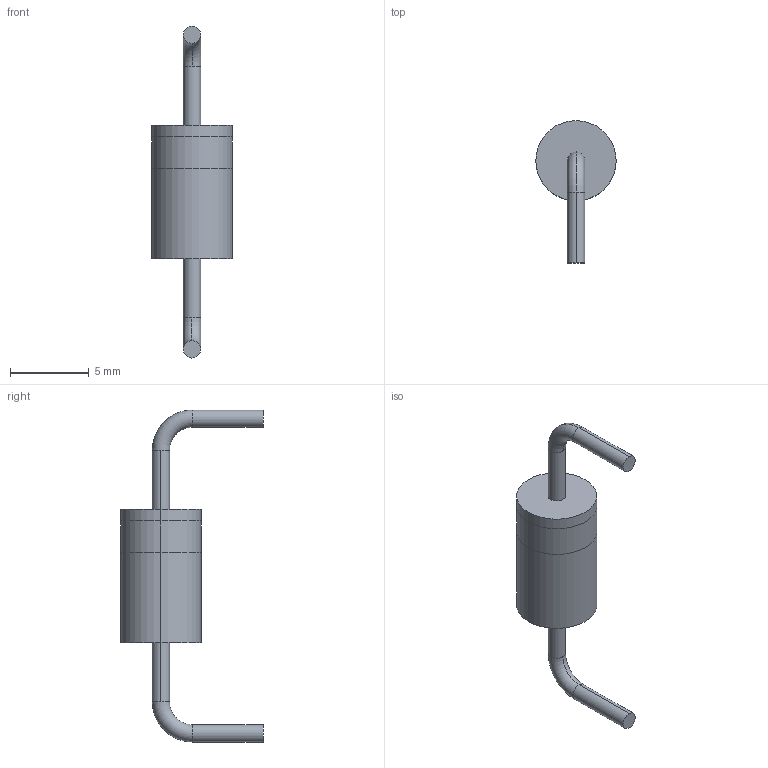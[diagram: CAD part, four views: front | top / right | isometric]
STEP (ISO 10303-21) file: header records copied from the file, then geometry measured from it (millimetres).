
FILE_DESCRIPTION (( 'STEP AP214' ), '1' );
FILE_NAME ('do-201ad.STEP', '2014-05-29T16:02:31', ( '' ), ( '' ), 'SwSTEP 2.0', 'SolidWorks 2013', '' );
FILE_SCHEMA (( 'AUTOMOTIVE_DESIGN' ));
Length unit declared in the file: millimetre
Products named in the file (3): terminal; corpo; do-201ad
Assembly tree (3 placements, depth 2):
  do-201ad
    corpo
    terminal  x2
Bounding box: 5.1 x 9.05 x 21.1 mm (x, y, z)
Volume: 195.3 mm3; surface area: 259.6 mm2
Topology: 3 solids, 3 shells, 26 faces, 50 edges, 32 vertices
Faces by surface type: cylinder 14, plane 8, torus 4
Entity records: 694 total; most frequent: DIRECTION 106, CARTESIAN_POINT 80, ORIENTED_EDGE 68, AXIS2_PLACEMENT_3D 48, EDGE_CURVE 34, CIRCLE 24, VERTEX_POINT 22, EDGE_LOOP 20
